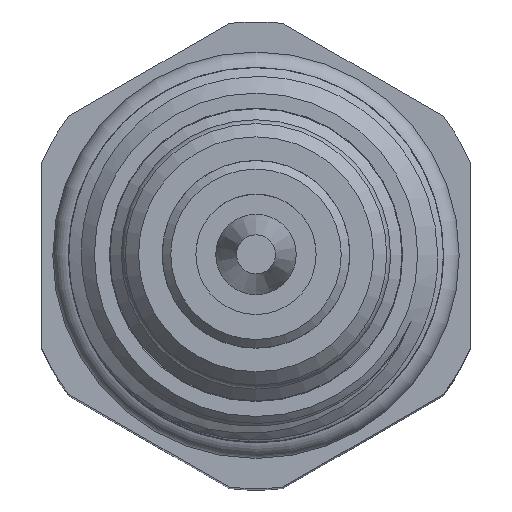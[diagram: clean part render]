
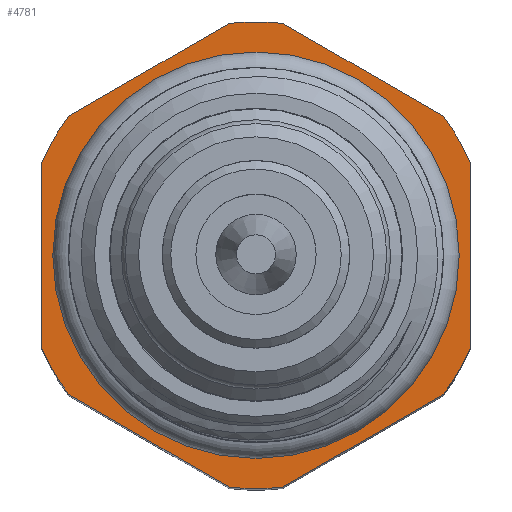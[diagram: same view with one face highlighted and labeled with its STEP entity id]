
A CAD part, top view. The second image highlights one B-rep face of the part: STEP entity #4781.
In plain terms, the highlighted planar face has unit normal (0, 0, 1).
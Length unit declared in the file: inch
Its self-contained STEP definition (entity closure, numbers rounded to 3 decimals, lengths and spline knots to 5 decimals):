
#73=FACE_BOUND('',#1095,.T.);
#220=PLANE('',#5205);
#522=CIRCLE('',#5122,0.545);
#524=CIRCLE('',#5126,0.545);
#529=CIRCLE('',#5136,0.426);
#539=CIRCLE('',#5150,0.545);
#541=CIRCLE('',#5153,0.545);
#543=CIRCLE('',#5157,0.545);
#545=CIRCLE('',#5161,0.545);
#793=FACE_OUTER_BOUND('',#1094,.T.);
#1094=EDGE_LOOP('',(#4047,#4048,#4049,#4050,#4051,#4052,#4053,#4054,#4055,
#4056,#4057,#4058));
#1095=EDGE_LOOP('',(#4059));
#1456=LINE('',#15704,#1708);
#1460=LINE('',#15723,#1712);
#1463=LINE('',#15741,#1715);
#1469=LINE('',#15800,#1721);
#1472=LINE('',#15817,#1724);
#1475=LINE('',#15832,#1727);
#1708=VECTOR('',#5913,0.3937);
#1712=VECTOR('',#5925,0.3937);
#1715=VECTOR('',#5936,0.3937);
#1721=VECTOR('',#5996,0.3937);
#1724=VECTOR('',#6007,0.3937);
#1727=VECTOR('',#6018,0.3937);
#2177=VERTEX_POINT('',#15701);
#2178=VERTEX_POINT('',#15703);
#2181=VERTEX_POINT('',#15713);
#2183=VERTEX_POINT('',#15721);
#2185=VERTEX_POINT('',#15730);
#2187=VERTEX_POINT('',#15738);
#2188=VERTEX_POINT('',#15740);
#2194=VERTEX_POINT('',#15760);
#2203=VERTEX_POINT('',#15788);
#2205=VERTEX_POINT('',#15799);
#2207=VERTEX_POINT('',#15805);
#2209=VERTEX_POINT('',#15816);
#2211=VERTEX_POINT('',#15822);
#2779=EDGE_CURVE('',#2177,#2178,#1456,.T.);
#2784=EDGE_CURVE('',#2181,#2177,#522,.T.);
#2787=EDGE_CURVE('',#2183,#2181,#1460,.T.);
#2791=EDGE_CURVE('',#2185,#2183,#524,.T.);
#2794=EDGE_CURVE('',#2187,#2188,#1463,.T.);
#2802=EDGE_CURVE('',#2194,#2194,#529,.T.);
#2814=EDGE_CURVE('',#2178,#2187,#539,.T.);
#2816=EDGE_CURVE('',#2188,#2203,#541,.T.);
#2820=EDGE_CURVE('',#2203,#2205,#1469,.T.);
#2823=EDGE_CURVE('',#2205,#2207,#543,.T.);
#2827=EDGE_CURVE('',#2207,#2209,#1472,.T.);
#2830=EDGE_CURVE('',#2209,#2211,#545,.T.);
#2834=EDGE_CURVE('',#2211,#2185,#1475,.T.);
#4047=ORIENTED_EDGE('',*,*,#2823,.F.);
#4048=ORIENTED_EDGE('',*,*,#2820,.F.);
#4049=ORIENTED_EDGE('',*,*,#2816,.F.);
#4050=ORIENTED_EDGE('',*,*,#2794,.F.);
#4051=ORIENTED_EDGE('',*,*,#2814,.F.);
#4052=ORIENTED_EDGE('',*,*,#2779,.F.);
#4053=ORIENTED_EDGE('',*,*,#2784,.F.);
#4054=ORIENTED_EDGE('',*,*,#2787,.F.);
#4055=ORIENTED_EDGE('',*,*,#2791,.F.);
#4056=ORIENTED_EDGE('',*,*,#2834,.F.);
#4057=ORIENTED_EDGE('',*,*,#2830,.F.);
#4058=ORIENTED_EDGE('',*,*,#2827,.F.);
#4059=ORIENTED_EDGE('',*,*,#2802,.F.);
#4781=ADVANCED_FACE('',(#793,#73),#220,.T.);
#5122=AXIS2_PLACEMENT_3D('',#15715,#5920,#5921);
#5126=AXIS2_PLACEMENT_3D('',#15732,#5931,#5932);
#5136=AXIS2_PLACEMENT_3D('',#15761,#5955,#5956);
#5150=AXIS2_PLACEMENT_3D('',#15784,#5985,#5986);
#5153=AXIS2_PLACEMENT_3D('',#15789,#5991,#5992);
#5157=AXIS2_PLACEMENT_3D('',#15806,#6002,#6003);
#5161=AXIS2_PLACEMENT_3D('',#15823,#6013,#6014);
#5205=AXIS2_PLACEMENT_3D('',#15943,#6127,#6128);
#5913=DIRECTION('',(0.866,-0.5,0.));
#5920=DIRECTION('center_axis',(0.,0.,
-1.));
#5921=DIRECTION('ref_axis',(1.,0.,0.));
#5925=DIRECTION('',(0.866,0.5,0.));
#5931=DIRECTION('center_axis',(0.,0.,
-1.));
#5932=DIRECTION('ref_axis',(1.,0.,0.));
#5936=DIRECTION('',(0.,-1.,0.));
#5955=DIRECTION('center_axis',(0.,0.,
1.));
#5956=DIRECTION('ref_axis',(-1.,0.,0.));
#5985=DIRECTION('center_axis',(0.,0.,
-1.));
#5986=DIRECTION('ref_axis',(1.,0.,0.));
#5991=DIRECTION('center_axis',(0.,0.,
-1.));
#5992=DIRECTION('ref_axis',(1.,0.,0.));
#5996=DIRECTION('',(-0.866,-0.5,0.));
#6002=DIRECTION('center_axis',(0.,0.,
-1.));
#6003=DIRECTION('ref_axis',(1.,0.,0.));
#6007=DIRECTION('',(-0.866,0.5,0.));
#6013=DIRECTION('center_axis',(0.,0.,
-1.));
#6014=DIRECTION('ref_axis',(1.,0.,0.));
#6018=DIRECTION('',(0.,1.,0.));
#6127=DIRECTION('center_axis',(0.,0.,
1.));
#6128=DIRECTION('ref_axis',(1.,0.,0.));
#15701=CARTESIAN_POINT('',(0.0622,0.54144,2.));
#15703=CARTESIAN_POINT('',(0.4378,0.32459,2.));
#15704=CARTESIAN_POINT('',(0.1561,0.48723,2.));
#15713=CARTESIAN_POINT('',(-0.0622,0.54144,2.));
#15715=CARTESIAN_POINT('Origin',(0.,0.,2.));
#15721=CARTESIAN_POINT('',(-0.4378,0.32459,2.));
#15723=CARTESIAN_POINT('',(-0.3439,0.3788,2.));
#15730=CARTESIAN_POINT('',(-0.5,0.21685,2.));
#15732=CARTESIAN_POINT('Origin',(0.,0.,2.));
#15738=CARTESIAN_POINT('',(0.5,0.21685,2.));
#15740=CARTESIAN_POINT('',(0.5,-0.21685,2.));
#15741=CARTESIAN_POINT('',(0.5,0.10843,2.));
#15760=CARTESIAN_POINT('',(0.426,0.,2.));
#15761=CARTESIAN_POINT('Origin',(0.,0.,
2.));
#15784=CARTESIAN_POINT('Origin',(0.,0.,2.));
#15788=CARTESIAN_POINT('',(0.4378,-0.32459,2.));
#15789=CARTESIAN_POINT('Origin',(0.,0.,2.));
#15799=CARTESIAN_POINT('',(0.0622,-0.54144,2.));
#15800=CARTESIAN_POINT('',(0.3439,-0.3788,2.));
#15805=CARTESIAN_POINT('',(-0.0622,-0.54144,2.));
#15806=CARTESIAN_POINT('Origin',(0.,0.,2.));
#15816=CARTESIAN_POINT('',(-0.4378,-0.32459,2.));
#15817=CARTESIAN_POINT('',(-0.1561,-0.48723,2.));
#15822=CARTESIAN_POINT('',(-0.5,-0.21685,2.));
#15823=CARTESIAN_POINT('Origin',(0.,0.,2.));
#15832=CARTESIAN_POINT('',(-0.5,-0.10843,2.));
#15943=CARTESIAN_POINT('Origin',(0.,0.,
2.));
